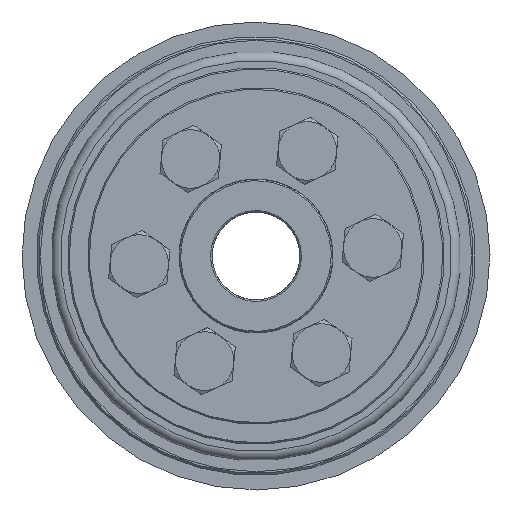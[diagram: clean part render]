
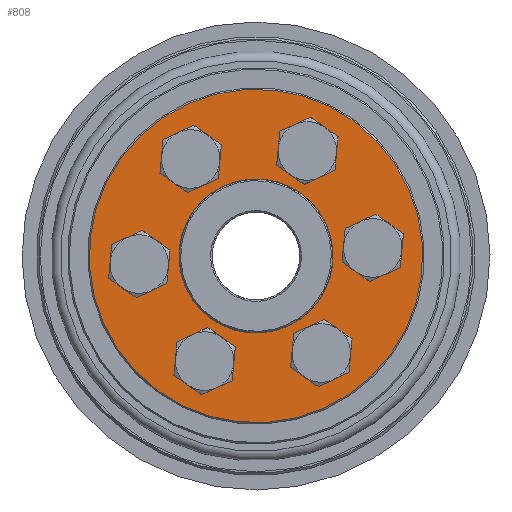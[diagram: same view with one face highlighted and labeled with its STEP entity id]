
A CAD part, left-side view. The second image highlights one B-rep face of the part: STEP entity #808.
In plain terms, the highlighted planar face has unit normal (-1, 0, 0).
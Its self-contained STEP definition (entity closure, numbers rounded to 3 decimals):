
#808 = ADVANCED_FACE( 'NONE', ( #1593, #1594, #1595, #1596, #1597, #1598, #1599, #1600 ), #1601, .F. );
#1593 = FACE_OUTER_BOUND( '', #2536, .T. );
#1594 = FACE_BOUND( '', #2537, .T. );
#1595 = FACE_BOUND( '', #2538, .T. );
#1596 = FACE_BOUND( '', #2539, .T. );
#1597 = FACE_BOUND( '', #2540, .T. );
#1598 = FACE_BOUND( '', #2541, .T. );
#1599 = FACE_BOUND( '', #2542, .T. );
#1600 = FACE_BOUND( '', #2543, .T. );
#1601 = PLANE( '', #2544 );
#2536 = EDGE_LOOP( '', ( #3625 ) );
#2537 = EDGE_LOOP( '', ( #3626 ) );
#2538 = EDGE_LOOP( '', ( #3627 ) );
#2539 = EDGE_LOOP( '', ( #3628 ) );
#2540 = EDGE_LOOP( '', ( #3629 ) );
#2541 = EDGE_LOOP( '', ( #3630 ) );
#2542 = EDGE_LOOP( '', ( #3631 ) );
#2543 = EDGE_LOOP( '', ( #3632 ) );
#2544 = AXIS2_PLACEMENT_3D( '', #3633, #3634, #3635 );
#3625 = ORIENTED_EDGE( '', *, *, #4786, .T. );
#3626 = ORIENTED_EDGE( '', *, *, #4787, .T. );
#3627 = ORIENTED_EDGE( '', *, *, #4788, .T. );
#3628 = ORIENTED_EDGE( '', *, *, #4554, .T. );
#3629 = ORIENTED_EDGE( '', *, *, #4615, .T. );
#3630 = ORIENTED_EDGE( '', *, *, #4789, .T. );
#3631 = ORIENTED_EDGE( '', *, *, #4790, .T. );
#3632 = ORIENTED_EDGE( '', *, *, #4629, .F. );
#3633 = CARTESIAN_POINT( '', ( 0., 10.5, 0. ) );
#3634 = DIRECTION( '', ( 1., 0., 0. ) );
#3635 = DIRECTION( '', ( 0., 1., 0. ) );
#4554 = EDGE_CURVE( 'NONE', #5100, #5100, #5101, .T. );
#4615 = EDGE_CURVE( 'NONE', #5203, #5203, #5204, .T. );
#4629 = EDGE_CURVE( 'NONE', #5222, #5222, #5223, .T. );
#4786 = EDGE_CURVE( 'NONE', #5468, #5468, #5469, .T. );
#4787 = EDGE_CURVE( 'NONE', #5470, #5470, #5471, .T. );
#4788 = EDGE_CURVE( 'NONE', #5472, #5472, #5473, .T. );
#4789 = EDGE_CURVE( 'NONE', #5474, #5474, #5475, .T. );
#4790 = EDGE_CURVE( 'NONE', #5476, #5476, #5477, .T. );
#5100 = VERTEX_POINT( '', #5882 );
#5101 = CIRCLE( '', #5883, 2.75 );
#5203 = VERTEX_POINT( '', #5993 );
#5204 = CIRCLE( '', #5994, 2.75 );
#5222 = VERTEX_POINT( '', #6012 );
#5223 = CIRCLE( '', #6013, 10.5 );
#5468 = VERTEX_POINT( '', #6402 );
#5469 = CIRCLE( '', #6403, 22.8 );
#5470 = VERTEX_POINT( '', #6404 );
#5471 = CIRCLE( '', #6405, 2.75 );
#5472 = VERTEX_POINT( '', #6406 );
#5473 = CIRCLE( '', #6407, 2.75 );
#5474 = VERTEX_POINT( '', #6408 );
#5475 = CIRCLE( '', #6409, 2.75 );
#5476 = VERTEX_POINT( '', #6410 );
#5477 = CIRCLE( '', #6411, 2.75 );
#5882 = CARTESIAN_POINT( '', ( 0., -16., -2.75 ) );
#5883 = AXIS2_PLACEMENT_3D( '', #7050, #7051, #7052 );
#5993 = CARTESIAN_POINT( '', ( 0., -8., -16.606 ) );
#5994 = AXIS2_PLACEMENT_3D( '', #7166, #7167, #7168 );
#6012 = CARTESIAN_POINT( '', ( 0., 0., 10.5 ) );
#6013 = AXIS2_PLACEMENT_3D( '', #7187, #7188, #7189 );
#6402 = CARTESIAN_POINT( '', ( 0., 0., -22.8 ) );
#6403 = AXIS2_PLACEMENT_3D( '', #7439, #7440, #7441 );
#6404 = CARTESIAN_POINT( '', ( 0., 8., 11.106 ) );
#6405 = AXIS2_PLACEMENT_3D( '', #7442, #7443, #7444 );
#6406 = CARTESIAN_POINT( '', ( 0., -8., 11.106 ) );
#6407 = AXIS2_PLACEMENT_3D( '', #7445, #7446, #7447 );
#6408 = CARTESIAN_POINT( '', ( 0., 8., -16.606 ) );
#6409 = AXIS2_PLACEMENT_3D( '', #7448, #7449, #7450 );
#6410 = CARTESIAN_POINT( '', ( 0., 16., -2.75 ) );
#6411 = AXIS2_PLACEMENT_3D( '', #7451, #7452, #7453 );
#7050 = CARTESIAN_POINT( '', ( 0., -16., 0. ) );
#7051 = DIRECTION( '', ( 1., 0., 0. ) );
#7052 = DIRECTION( '', ( 0., 0., -1. ) );
#7166 = CARTESIAN_POINT( '', ( 0., -8., -13.856 ) );
#7167 = DIRECTION( '', ( 1., 0., 0. ) );
#7168 = DIRECTION( '', ( 0., 0., -1. ) );
#7187 = CARTESIAN_POINT( '', ( 0., 0., 0. ) );
#7188 = DIRECTION( '', ( -1., 0., 0. ) );
#7189 = DIRECTION( '', ( 0., 0., 1. ) );
#7439 = CARTESIAN_POINT( '', ( 0., 0., 0. ) );
#7440 = DIRECTION( '', ( -1., 0., 0. ) );
#7441 = DIRECTION( '', ( 0., 0., -1. ) );
#7442 = CARTESIAN_POINT( '', ( 0., 8., 13.856 ) );
#7443 = DIRECTION( '', ( 1., 0., 0. ) );
#7444 = DIRECTION( '', ( 0., 0., -1. ) );
#7445 = CARTESIAN_POINT( '', ( 0., -8., 13.856 ) );
#7446 = DIRECTION( '', ( 1., 0., 0. ) );
#7447 = DIRECTION( '', ( 0., 0., -1. ) );
#7448 = CARTESIAN_POINT( '', ( 0., 8., -13.856 ) );
#7449 = DIRECTION( '', ( 1., 0., 0. ) );
#7450 = DIRECTION( '', ( 0., 0., -1. ) );
#7451 = CARTESIAN_POINT( '', ( 0., 16., 0. ) );
#7452 = DIRECTION( '', ( 1., 0., 0. ) );
#7453 = DIRECTION( '', ( 0., 0., -1. ) );
